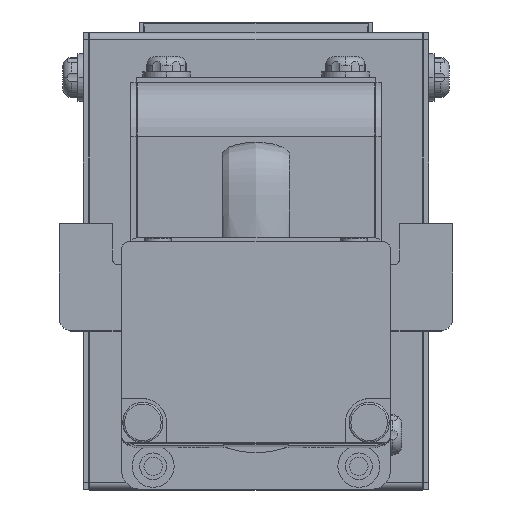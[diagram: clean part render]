
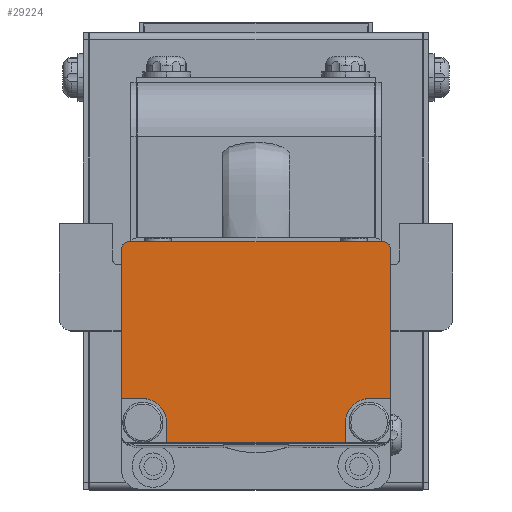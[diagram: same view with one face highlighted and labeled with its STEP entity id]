
A CAD part, top view. The second image highlights one B-rep face of the part: STEP entity #29224.
In plain terms, the highlighted planar face has unit normal (0, 0, 1) as drawn and (1, 0, 0) by its records, which use the part's own axes.
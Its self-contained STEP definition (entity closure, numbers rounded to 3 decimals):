
#3700 = EDGE_CURVE ( 'NONE', #61025, #9879, #12318, .T. ) ;
#3775 = EDGE_CURVE ( 'NONE', #7791, #61943, #57127, .T. ) ;
#4088 = AXIS2_PLACEMENT_3D ( 'NONE', #50305, #13834, #56464 ) ;
#5198 = DIRECTION ( 'NONE',  ( 1., 0., 0. ) ) ;
#7791 = VERTEX_POINT ( 'NONE', #45944 ) ;
#8181 = VERTEX_POINT ( 'NONE', #54243 ) ;
#8626 = CARTESIAN_POINT ( 'NONE',  ( 135., 12.55, 14.25 ) ) ;
#8965 = AXIS2_PLACEMENT_3D ( 'NONE', #55700, #19150, #61851 ) ;
#9879 = VERTEX_POINT ( 'NONE', #62714 ) ;
#11713 = CARTESIAN_POINT ( 'NONE',  ( 135., -4.25, -15. ) ) ;
#12318 = LINE ( 'NONE', #66623, #26569 ) ;
#12867 = VECTOR ( 'NONE', #52014, 1000. ) ;
#13295 = AXIS2_PLACEMENT_3D ( 'NONE', #41673, #5198, #47811 ) ;
#13834 = DIRECTION ( 'NONE',  ( 1., 0., 0. ) ) ;
#14794 = DIRECTION ( 'NONE',  ( 0., 0., -1. ) ) ;
#15606 = CARTESIAN_POINT ( 'NONE',  ( 135., 12.55, 15. ) ) ;
#16967 = FACE_OUTER_BOUND ( 'NONE', #41394, .T. ) ;
#17733 = LINE ( 'NONE', #74536, #64534 ) ;
#18054 = DIRECTION ( 'NONE',  ( 0., 0., -1. ) ) ;
#18491 = VECTOR ( 'NONE', #67350, 1000. ) ;
#18497 = CARTESIAN_POINT ( 'NONE',  ( 135., 12.55, 10. ) ) ;
#18551 = CARTESIAN_POINT ( 'NONE',  ( 135., 13.3, 14.25 ) ) ;
#19003 = EDGE_CURVE ( 'NONE', #33693, #40604, #17733, .T. ) ;
#19150 = DIRECTION ( 'NONE',  ( -1., 0., 0. ) ) ;
#19206 = EDGE_CURVE ( 'NONE', #38450, #33693, #60630, .T. ) ;
#21107 = VERTEX_POINT ( 'NONE', #23984 ) ;
#21678 = VERTEX_POINT ( 'NONE', #42059 ) ;
#22233 = CIRCLE ( 'NONE', #68675, 0.75 ) ;
#23984 = CARTESIAN_POINT ( 'NONE',  ( 135., -4.25, -12.65 ) ) ;
#25163 = DIRECTION ( 'NONE',  ( 0., 1., 0. ) ) ;
#25625 = CARTESIAN_POINT ( 'NONE',  ( 135., 13.3, -14.25 ) ) ;
#26040 = VERTEX_POINT ( 'NONE', #50227 ) ;
#26178 = CARTESIAN_POINT ( 'NONE',  ( 135., -6.9, 12.65 ) ) ;
#26569 = VECTOR ( 'NONE', #18054, 1000. ) ;
#26879 = EDGE_CURVE ( 'NONE', #9879, #26040, #77769, .T. ) ;
#27015 = CARTESIAN_POINT ( 'NONE',  ( 135., -4.25, 12.65 ) ) ;
#28115 = CIRCLE ( 'NONE', #48736, 2.65 ) ;
#29224 = ADVANCED_FACE ( 'NONE', ( #16967 ), #79185, .T. ) ;
#30918 = ORIENTED_EDGE ( 'NONE', *, *, #49797, .T. ) ;
#32308 = DIRECTION ( 'NONE',  ( 0., 0., -1. ) ) ;
#33693 = VERTEX_POINT ( 'NONE', #25625 ) ;
#35801 = VECTOR ( 'NONE', #71255, 1000. ) ;
#38166 = ORIENTED_EDGE ( 'NONE', *, *, #26879, .T. ) ;
#38450 = VERTEX_POINT ( 'NONE', #69547 ) ;
#39001 = VECTOR ( 'NONE', #73304, 1000. ) ;
#40434 = ORIENTED_EDGE ( 'NONE', *, *, #71229, .T. ) ;
#40604 = VERTEX_POINT ( 'NONE', #18551 ) ;
#41394 = EDGE_LOOP ( 'NONE', ( #30918, #77540, #71010, #46521, #52428, #61872, #43473, #57922, #51095, #40434, #73539, #38166 ) ) ;
#41673 = CARTESIAN_POINT ( 'NONE',  ( 135., 12.55, -14.25 ) ) ;
#42059 = CARTESIAN_POINT ( 'NONE',  ( 135., 12.55, 15. ) ) ;
#42761 = EDGE_CURVE ( 'NONE', #61943, #8181, #28115, .T. ) ;
#43473 = ORIENTED_EDGE ( 'NONE', *, *, #47480, .T. ) ;
#43780 = LINE ( 'NONE', #15606, #72448 ) ;
#44277 = EDGE_CURVE ( 'NONE', #70550, #38450, #59344, .T. ) ;
#45944 = CARTESIAN_POINT ( 'NONE',  ( 135., -4.25, 15. ) ) ;
#46267 = DIRECTION ( 'NONE',  ( 0., -1., 0. ) ) ;
#46521 = ORIENTED_EDGE ( 'NONE', *, *, #19206, .T. ) ;
#47480 = EDGE_CURVE ( 'NONE', #21678, #7791, #43780, .T. ) ;
#47811 = DIRECTION ( 'NONE',  ( 0., 0., -1. ) ) ;
#48736 = AXIS2_PLACEMENT_3D ( 'NONE', #26178, #68893, #32308 ) ;
#49797 = EDGE_CURVE ( 'NONE', #26040, #21107, #69824, .T. ) ;
#50227 = CARTESIAN_POINT ( 'NONE',  ( 135., -6.9, -10. ) ) ;
#50305 = CARTESIAN_POINT ( 'NONE',  ( 135., 12.55, 14.25 ) ) ;
#50947 = LINE ( 'NONE', #18497, #18491 ) ;
#51095 = ORIENTED_EDGE ( 'NONE', *, *, #42761, .T. ) ;
#51286 = DIRECTION ( 'NONE',  ( 1., 0., 0. ) ) ;
#52014 = DIRECTION ( 'NONE',  ( 0., 1., 0. ) ) ;
#52428 = ORIENTED_EDGE ( 'NONE', *, *, #19003, .T. ) ;
#54243 = CARTESIAN_POINT ( 'NONE',  ( 135., -6.9, 10. ) ) ;
#55143 = CARTESIAN_POINT ( 'NONE',  ( 135., -4.25, 14.25 ) ) ;
#55700 = CARTESIAN_POINT ( 'NONE',  ( 135., -6.9, -12.65 ) ) ;
#56464 = DIRECTION ( 'NONE',  ( 0., 0., -1. ) ) ;
#57127 = LINE ( 'NONE', #55143, #39001 ) ;
#57922 = ORIENTED_EDGE ( 'NONE', *, *, #3775, .T. ) ;
#58144 = CARTESIAN_POINT ( 'NONE',  ( 135., 12.55, -10. ) ) ;
#58215 = CARTESIAN_POINT ( 'NONE',  ( 135., -9.2, 10. ) ) ;
#58336 = EDGE_CURVE ( 'NONE', #21107, #70550, #68278, .T. ) ;
#59344 = LINE ( 'NONE', #67896, #71783 ) ;
#60630 = CIRCLE ( 'NONE', #13295, 0.75 ) ;
#61025 = VERTEX_POINT ( 'NONE', #58215 ) ;
#61851 = DIRECTION ( 'NONE',  ( 0., 0., -1. ) ) ;
#61872 = ORIENTED_EDGE ( 'NONE', *, *, #71441, .T. ) ;
#61943 = VERTEX_POINT ( 'NONE', #27015 ) ;
#62714 = CARTESIAN_POINT ( 'NONE',  ( 135., -9.2, -10. ) ) ;
#64534 = VECTOR ( 'NONE', #68666, 1000. ) ;
#65064 = CARTESIAN_POINT ( 'NONE',  ( 135., -4.25, 14.25 ) ) ;
#66623 = CARTESIAN_POINT ( 'NONE',  ( 135., -9.2, 14.25 ) ) ;
#67350 = DIRECTION ( 'NONE',  ( 0., -1., 0. ) ) ;
#67896 = CARTESIAN_POINT ( 'NONE',  ( 135., -8.45, -15. ) ) ;
#68278 = LINE ( 'NONE', #65064, #35801 ) ;
#68666 = DIRECTION ( 'NONE',  ( 0., 0., 1. ) ) ;
#68675 = AXIS2_PLACEMENT_3D ( 'NONE', #8626, #51286, #14794 ) ;
#68893 = DIRECTION ( 'NONE',  ( -1., 0., 0. ) ) ;
#69547 = CARTESIAN_POINT ( 'NONE',  ( 135., 12.55, -15. ) ) ;
#69824 = CIRCLE ( 'NONE', #8965, 2.65 ) ;
#70550 = VERTEX_POINT ( 'NONE', #11713 ) ;
#71010 = ORIENTED_EDGE ( 'NONE', *, *, #44277, .T. ) ;
#71229 = EDGE_CURVE ( 'NONE', #8181, #61025, #50947, .T. ) ;
#71255 = DIRECTION ( 'NONE',  ( 0., 0., -1. ) ) ;
#71441 = EDGE_CURVE ( 'NONE', #40604, #21678, #22233, .T. ) ;
#71783 = VECTOR ( 'NONE', #25163, 1000. ) ;
#72448 = VECTOR ( 'NONE', #46267, 1000. ) ;
#73304 = DIRECTION ( 'NONE',  ( 0., 0., -1. ) ) ;
#73539 = ORIENTED_EDGE ( 'NONE', *, *, #3700, .T. ) ;
#74536 = CARTESIAN_POINT ( 'NONE',  ( 135., 13.3, -14.25 ) ) ;
#77540 = ORIENTED_EDGE ( 'NONE', *, *, #58336, .T. ) ;
#77769 = LINE ( 'NONE', #58144, #12867 ) ;
#79185 = PLANE ( 'NONE',  #4088 ) ;
